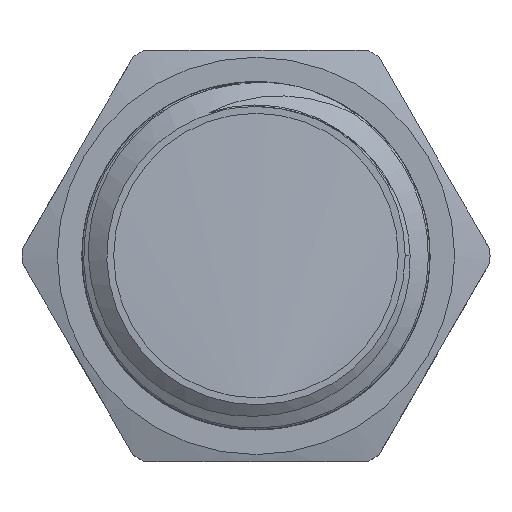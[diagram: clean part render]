
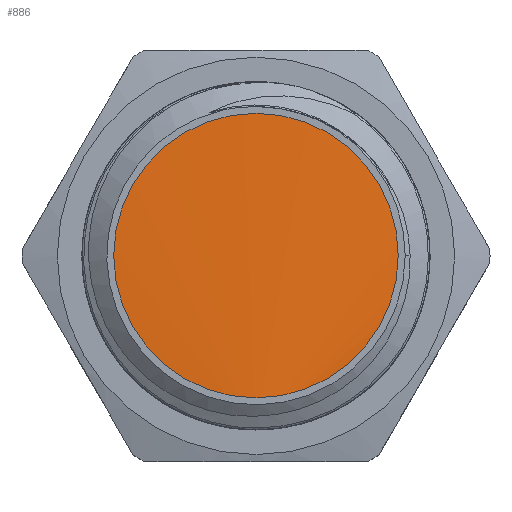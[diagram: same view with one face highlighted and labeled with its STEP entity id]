
A CAD part, top view. The second image highlights one B-rep face of the part: STEP entity #886.
In plain terms, the highlighted cylindrical face has radius 9.3 mm (diameter 18.6 mm), a full revolution.
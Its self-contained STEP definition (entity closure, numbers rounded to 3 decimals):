
#100=FACE_OUTER_BOUND('',#154,.T.);
#154=EDGE_LOOP('',(#595,#596,#597));
#215=B_SPLINE_CURVE_WITH_KNOTS('',3,(#1517,#1518,#1519,#1520,#1521,#1522,
#1523,#1524,#1525,#1526,#1527,#1528,#1529,#1530,#1531,#1532,#1533),
 .UNSPECIFIED.,.F.,.F.,(4,1,1,1,1,1,1,1,1,1,1,1,1,1,4),(12.566,
12.833,13.325,13.818,14.31,14.802,
15.295,15.787,16.279,16.772,17.264,
17.756,18.248,18.741,18.85),
 .UNSPECIFIED.);
#273=LINE('',#1262,#305);
#279=LINE('',#1516,#311);
#305=VECTOR('',#1035,9.3);
#311=VECTOR('',#1055,9.3);
#338=VERTEX_POINT('',#1260);
#339=VERTEX_POINT('',#1261);
#349=VERTEX_POINT('',#1515);
#432=EDGE_CURVE('',#338,#339,#273,.T.);
#448=EDGE_CURVE('',#349,#339,#279,.T.);
#449=EDGE_CURVE('',#349,#338,#215,.T.);
#595=ORIENTED_EDGE('',*,*,#432,.T.);
#596=ORIENTED_EDGE('',*,*,#448,.F.);
#597=ORIENTED_EDGE('',*,*,#449,.T.);
#862=CYLINDRICAL_SURFACE('',#961,9.3);
#886=ADVANCED_FACE('',(#100),#862,.T.);
#961=AXIS2_PLACEMENT_3D('',#1514,#1053,#1054);
#1035=DIRECTION('',(0.,0.,1.));
#1053=DIRECTION('center_axis',(0.,0.,1.));
#1054=DIRECTION('ref_axis',(0.,1.,0.));
#1055=DIRECTION('',(0.,0.,-1.));
#1260=CARTESIAN_POINT('',(0.,-9.3,7.608));
#1261=CARTESIAN_POINT('',(0.,-9.3,9.407));
#1262=CARTESIAN_POINT('',(0.,-9.3,0.));
#1514=CARTESIAN_POINT('Origin',(0.,0.,0.));
#1515=CARTESIAN_POINT('',(0.,-9.3,9.408));
#1516=CARTESIAN_POINT('',(0.,-9.3,0.));
#1517=CARTESIAN_POINT('Ctrl Pts',(0.,-9.299,
9.408));
#1518=CARTESIAN_POINT('Ctrl Pts',(-0.827,-9.299,9.382));
#1519=CARTESIAN_POINT('Ctrl Pts',(-3.18,-8.988,9.31));
#1520=CARTESIAN_POINT('Ctrl Pts',(-6.665,-7.026,9.19));
#1521=CARTESIAN_POINT('Ctrl Pts',(-9.194,-3.042,9.049));
#1522=CARTESIAN_POINT('Ctrl Pts',(-9.54,1.665,8.908));
#1523=CARTESIAN_POINT('Ctrl Pts',(-7.62,5.977,8.767));
#1524=CARTESIAN_POINT('Ctrl Pts',(-3.89,8.868,8.626));
#1525=CARTESIAN_POINT('Ctrl Pts',(0.764,9.654,8.485));
#1526=CARTESIAN_POINT('Ctrl Pts',(5.236,8.146,8.344));
#1527=CARTESIAN_POINT('Ctrl Pts',(8.465,4.704,8.203));
#1528=CARTESIAN_POINT('Ctrl Pts',(9.683,0.145,8.062));
#1529=CARTESIAN_POINT('Ctrl Pts',(8.601,-4.449,7.921));
#1530=CARTESIAN_POINT('Ctrl Pts',(5.477,-7.987,7.78));
#1531=CARTESIAN_POINT('Ctrl Pts',(2.201,-9.201,7.675));
#1532=CARTESIAN_POINT('Ctrl Pts',(0.337,-9.3,7.618));
#1533=CARTESIAN_POINT('Ctrl Pts',(0.,-9.3,
7.608));
